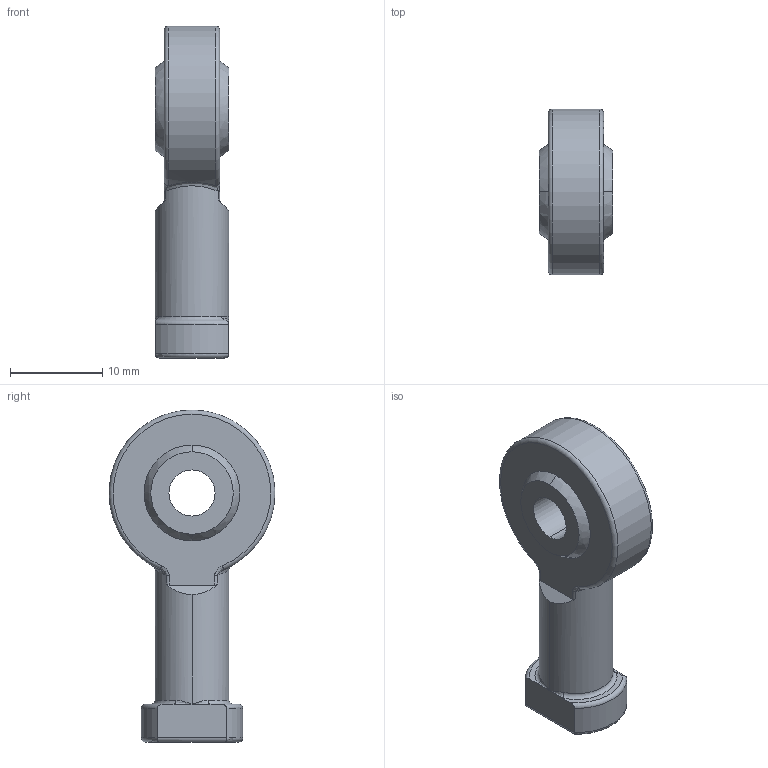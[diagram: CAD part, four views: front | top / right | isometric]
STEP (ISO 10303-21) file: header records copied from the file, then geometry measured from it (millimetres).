
FILE_DESCRIPTION (( 'STEP AP214' ), '1' );
FILE_NAME ('KJ4D.step.step', '2021-07-28T10:27:20', ( '' ), ( '' ), 'SwSTEP 2.0', 'SolidWorks 2021', '' );
FILE_SCHEMA (( 'AUTOMOTIVE_DESIGN' ));
Length unit declared in the file: millimetre
Products named in the file (3): KJ4D.step; KJ4D.step_KJGKM2057Z-Body_4D; KJ4D.step_KJGKM2057Z-RodEye_4D
Assembly tree (2 placements, depth 2):
  KJ4D.step
    KJ4D.step_KJGKM2057Z-Body_4D
    KJ4D.step_KJGKM2057Z-RodEye_4D
Bounding box: 8.01 x 17.99 x 36 mm (x, y, z)
Volume: 2410.6 mm3; surface area: 2067.3 mm2
Topology: 2 solids, 2 shells, 57 faces, 142 edges, 84 vertices
Faces by surface type: cylinder 17, bspline 14, plane 12, torus 8, sphere 4, cone 2
Entity records: 2668 total; most frequent: CARTESIAN_POINT 1390, ORIENTED_EDGE 260, DIRECTION 226, EDGE_CURVE 130, AXIS2_PLACEMENT_3D 96, VERTEX_POINT 78, EDGE_LOOP 62, FACE_OUTER_BOUND 57
